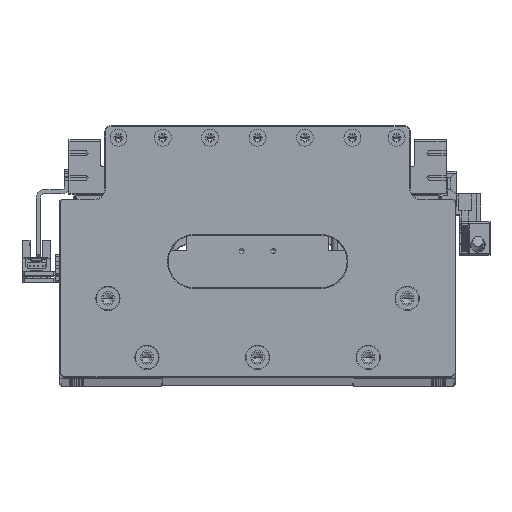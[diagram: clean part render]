
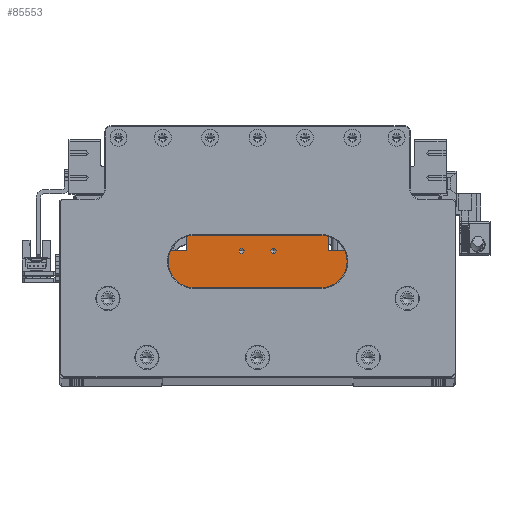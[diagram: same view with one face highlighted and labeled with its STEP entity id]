
A CAD part, top view. The second image highlights one B-rep face of the part: STEP entity #85553.
In plain terms, the highlighted planar face has unit normal (0, 0, 1).
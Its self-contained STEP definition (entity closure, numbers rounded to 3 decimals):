
#1517 = ORIENTED_EDGE ( 'NONE', *, *, #45292, .T. ) ;
#2479 = CARTESIAN_POINT ( 'NONE',  ( 0., 0., 125. ) ) ;
#3617 = CARTESIAN_POINT ( 'NONE',  ( -45., -40.2, 125. ) ) ;
#4456 = EDGE_CURVE ( 'NONE', #109426, #106371, #116025, .T. ) ;
#4850 = LINE ( 'NONE', #70516, #50422 ) ;
#5288 = FACE_OUTER_BOUND ( 'NONE', #30588, .T. ) ;
#7451 = EDGE_CURVE ( 'NONE', #62780, #117346, #78548, .T. ) ;
#8730 = VECTOR ( 'NONE', #70085, 1000. ) ;
#10436 = VECTOR ( 'NONE', #95527, 1000. ) ;
#11624 = PLANE ( 'NONE',  #50638 ) ;
#14236 = VERTEX_POINT ( 'NONE', #3617 ) ;
#17570 = ORIENTED_EDGE ( 'NONE', *, *, #47674, .T. ) ;
#20059 = VERTEX_POINT ( 'NONE', #107705 ) ;
#20834 = DIRECTION ( 'NONE',  ( 0., 0., -1. ) ) ;
#22285 = LINE ( 'NONE', #85633, #116342 ) ;
#25973 = VERTEX_POINT ( 'NONE', #57479 ) ;
#28620 = ORIENTED_EDGE ( 'NONE', *, *, #7451, .T. ) ;
#28736 = CARTESIAN_POINT ( 'NONE',  ( 45., 0., 125. ) ) ;
#29480 = FACE_BOUND ( 'NONE', #83831, .T. ) ;
#29914 = DIRECTION ( 'NONE',  ( 1., 0., 0. ) ) ;
#30588 = EDGE_LOOP ( 'NONE', ( #28620, #85999, #52986, #79801, #70326, #102248, #1517, #116071 ) ) ;
#33893 = DIRECTION ( 'NONE',  ( 0., 0., -1. ) ) ;
#34219 = DIRECTION ( 'NONE',  ( 0., -1., 0. ) ) ;
#36504 = LINE ( 'NONE', #103694, #55025 ) ;
#36535 = EDGE_LOOP ( 'NONE', ( #17570, #75335 ) ) ;
#38133 = EDGE_CURVE ( 'NONE', #106371, #109426, #61865, .T. ) ;
#38552 = CARTESIAN_POINT ( 'NONE',  ( -6.25, -8., 125. ) ) ;
#40910 = LINE ( 'NONE', #28736, #59458 ) ;
#41431 = CARTESIAN_POINT ( 'NONE',  ( -45., -40.2, 125. ) ) ;
#45157 = CARTESIAN_POINT ( 'NONE',  ( -8.75, -8., 125. ) ) ;
#45186 = CARTESIAN_POINT ( 'NONE',  ( 6.25, -8., 125. ) ) ;
#45292 = EDGE_CURVE ( 'NONE', #65275, #68057, #36504, .T. ) ;
#47674 = EDGE_CURVE ( 'NONE', #25973, #58498, #107558, .T. ) ;
#49050 = DIRECTION ( 'NONE',  ( -1., 0., 0. ) ) ;
#50422 = VECTOR ( 'NONE', #34219, 1000. ) ;
#50638 = AXIS2_PLACEMENT_3D ( 'NONE', #2479, #84511, #29914 ) ;
#51454 = DIRECTION ( 'NONE',  ( 0., 0., -1. ) ) ;
#51556 = EDGE_CURVE ( 'NONE', #117346, #14236, #86464, .T. ) ;
#51710 = DIRECTION ( 'NONE',  ( 0., 0., -1. ) ) ;
#52353 = VERTEX_POINT ( 'NONE', #56389 ) ;
#52986 = ORIENTED_EDGE ( 'NONE', *, *, #90896, .T. ) ;
#53418 = EDGE_CURVE ( 'NONE', #68057, #62780, #4850, .T. ) ;
#53931 = EDGE_CURVE ( 'NONE', #52353, #65275, #80258, .T. ) ;
#54142 = CARTESIAN_POINT ( 'NONE',  ( -45., 0., 125. ) ) ;
#55025 = VECTOR ( 'NONE', #49050, 1000. ) ;
#56389 = CARTESIAN_POINT ( 'NONE',  ( 33.5, -8., 125. ) ) ;
#57479 = CARTESIAN_POINT ( 'NONE',  ( 8.75, -8., 125. ) ) ;
#58498 = VERTEX_POINT ( 'NONE', #45186 ) ;
#59458 = VECTOR ( 'NONE', #92484, 1000. ) ;
#59805 = DIRECTION ( 'NONE',  ( 1., 0., 0. ) ) ;
#61865 = CIRCLE ( 'NONE', #90013, 1.25 ) ;
#62220 = VECTOR ( 'NONE', #63349, 1000. ) ;
#62780 = VERTEX_POINT ( 'NONE', #111661 ) ;
#63349 = DIRECTION ( 'NONE',  ( 0., -1., 0. ) ) ;
#65275 = VERTEX_POINT ( 'NONE', #87862 ) ;
#67298 = LINE ( 'NONE', #41431, #112944 ) ;
#68057 = VERTEX_POINT ( 'NONE', #76130 ) ;
#69830 = VERTEX_POINT ( 'NONE', #113831 ) ;
#70085 = DIRECTION ( 'NONE',  ( -1., 0., 0. ) ) ;
#70326 = ORIENTED_EDGE ( 'NONE', *, *, #72163, .T. ) ;
#70516 = CARTESIAN_POINT ( 'NONE',  ( -33.5, 0., 125. ) ) ;
#72163 = EDGE_CURVE ( 'NONE', #69830, #52353, #22285, .T. ) ;
#74154 = CIRCLE ( 'NONE', #89061, 1.25 ) ;
#75335 = ORIENTED_EDGE ( 'NONE', *, *, #99498, .T. ) ;
#75394 = CARTESIAN_POINT ( 'NONE',  ( -7.5, -8., 125. ) ) ;
#76130 = CARTESIAN_POINT ( 'NONE',  ( -33.5, 0., 125. ) ) ;
#76871 = DIRECTION ( 'NONE',  ( -1., 0., 0. ) ) ;
#78548 = LINE ( 'NONE', #88429, #8730 ) ;
#79801 = ORIENTED_EDGE ( 'NONE', *, *, #85450, .T. ) ;
#80258 = LINE ( 'NONE', #113885, #10436 ) ;
#80817 = FACE_BOUND ( 'NONE', #36535, .T. ) ;
#83831 = EDGE_LOOP ( 'NONE', ( #109451, #118031 ) ) ;
#84511 = DIRECTION ( 'NONE',  ( 0., 0., 1. ) ) ;
#84534 = DIRECTION ( 'NONE',  ( 1., 0., 0. ) ) ;
#85450 = EDGE_CURVE ( 'NONE', #20059, #69830, #40910, .T. ) ;
#85553 = ADVANCED_FACE ( 'NONE', ( #5288, #80817, #29480 ), #11624, .T. ) ;
#85633 = CARTESIAN_POINT ( 'NONE',  ( 0., -8., 125. ) ) ;
#85999 = ORIENTED_EDGE ( 'NONE', *, *, #51556, .T. ) ;
#86464 = LINE ( 'NONE', #54142, #62220 ) ;
#87862 = CARTESIAN_POINT ( 'NONE',  ( 33.5, 0., 125. ) ) ;
#88429 = CARTESIAN_POINT ( 'NONE',  ( 0., -8., 125. ) ) ;
#88502 = CARTESIAN_POINT ( 'NONE',  ( 7.5, -8., 125. ) ) ;
#89061 = AXIS2_PLACEMENT_3D ( 'NONE', #88502, #33893, #97658 ) ;
#90013 = AXIS2_PLACEMENT_3D ( 'NONE', #106342, #51710, #115517 ) ;
#90821 = AXIS2_PLACEMENT_3D ( 'NONE', #75394, #20834, #84534 ) ;
#90896 = EDGE_CURVE ( 'NONE', #14236, #20059, #67298, .T. ) ;
#92484 = DIRECTION ( 'NONE',  ( 0., 1., 0. ) ) ;
#95527 = DIRECTION ( 'NONE',  ( 0., 1., 0. ) ) ;
#97658 = DIRECTION ( 'NONE',  ( 1., 0., 0. ) ) ;
#99498 = EDGE_CURVE ( 'NONE', #58498, #25973, #74154, .T. ) ;
#102248 = ORIENTED_EDGE ( 'NONE', *, *, #53931, .T. ) ;
#103694 = CARTESIAN_POINT ( 'NONE',  ( 0., 0., 125. ) ) ;
#104903 = AXIS2_PLACEMENT_3D ( 'NONE', #106057, #51454, #115247 ) ;
#106057 = CARTESIAN_POINT ( 'NONE',  ( 7.5, -8., 125. ) ) ;
#106342 = CARTESIAN_POINT ( 'NONE',  ( -7.5, -8., 125. ) ) ;
#106371 = VERTEX_POINT ( 'NONE', #38552 ) ;
#106471 = CARTESIAN_POINT ( 'NONE',  ( -45., -8., 125. ) ) ;
#107558 = CIRCLE ( 'NONE', #104903, 1.25 ) ;
#107705 = CARTESIAN_POINT ( 'NONE',  ( 45., -40.2, 125. ) ) ;
#109426 = VERTEX_POINT ( 'NONE', #45157 ) ;
#109451 = ORIENTED_EDGE ( 'NONE', *, *, #38133, .T. ) ;
#111661 = CARTESIAN_POINT ( 'NONE',  ( -33.5, -8., 125. ) ) ;
#112944 = VECTOR ( 'NONE', #59805, 1000. ) ;
#113831 = CARTESIAN_POINT ( 'NONE',  ( 45., -8., 125. ) ) ;
#113885 = CARTESIAN_POINT ( 'NONE',  ( 33.5, 0., 125. ) ) ;
#115247 = DIRECTION ( 'NONE',  ( 1., 0., 0. ) ) ;
#115517 = DIRECTION ( 'NONE',  ( 1., 0., 0. ) ) ;
#116025 = CIRCLE ( 'NONE', #90821, 1.25 ) ;
#116071 = ORIENTED_EDGE ( 'NONE', *, *, #53418, .T. ) ;
#116342 = VECTOR ( 'NONE', #76871, 1000. ) ;
#117346 = VERTEX_POINT ( 'NONE', #106471 ) ;
#118031 = ORIENTED_EDGE ( 'NONE', *, *, #4456, .T. ) ;
